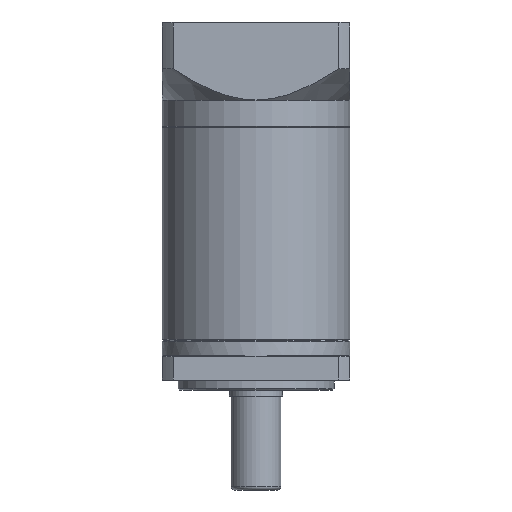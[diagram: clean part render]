
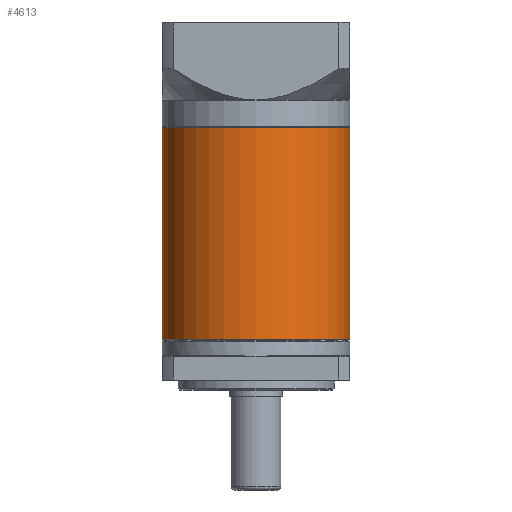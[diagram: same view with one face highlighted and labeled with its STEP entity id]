
A CAD part, front view. The second image highlights one B-rep face of the part: STEP entity #4613.
In plain terms, the highlighted cylindrical face has radius 30 mm (diameter 60 mm), a partial arc.
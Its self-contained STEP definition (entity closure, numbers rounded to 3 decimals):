
#4613 = ADVANCED_FACE ( 'NONE', ( #18618 ), #7306, .T. ) ;
#7306 = CYLINDRICAL_SURFACE ( 'NONE', #83870, 30. ) ;
#7723 = DIRECTION ( 'NONE',  ( 0., 0., -1. ) ) ;
#9926 = EDGE_CURVE ( 'NONE', #99716, #85970, #29562, .T. ) ;
#12127 = EDGE_LOOP ( 'NONE', ( #60117, #15418, #45933, #13732 ) ) ;
#13732 = ORIENTED_EDGE ( 'NONE', *, *, #93222, .T. ) ;
#13764 = LINE ( 'NONE', #31440, #21214 ) ;
#15418 = ORIENTED_EDGE ( 'NONE', *, *, #9926, .T. ) ;
#16421 = CARTESIAN_POINT ( 'NONE',  ( -44.581, -3.799, 121.95 ) ) ;
#18618 = FACE_OUTER_BOUND ( 'NONE', #12127, .T. ) ;
#19616 = CARTESIAN_POINT ( 'NONE',  ( -44.581, -3.799, 121.7 ) ) ;
#21214 = VECTOR ( 'NONE', #79597, 1000. ) ;
#22242 = VERTEX_POINT ( 'NONE', #81801 ) ;
#22758 = DIRECTION ( 'NONE',  ( 1., 0., 0. ) ) ;
#28715 = DIRECTION ( 'NONE',  ( 0., 0., -1. ) ) ;
#28770 = LINE ( 'NONE', #68141, #66244 ) ;
#29562 = CIRCLE ( 'NONE', #95355, 30. ) ;
#31007 = CARTESIAN_POINT ( 'NONE',  ( -74.581, -3.799, 53.9 ) ) ;
#31440 = CARTESIAN_POINT ( 'NONE',  ( -74.581, -3.799, 121.95 ) ) ;
#31933 = DIRECTION ( 'NONE',  ( 0., 0., 1. ) ) ;
#45933 = ORIENTED_EDGE ( 'NONE', *, *, #81151, .T. ) ;
#48498 = CARTESIAN_POINT ( 'NONE',  ( -74.581, -3.799, 121.7 ) ) ;
#60117 = ORIENTED_EDGE ( 'NONE', *, *, #64260, .F. ) ;
#64260 = EDGE_CURVE ( 'NONE', #99716, #22242, #28770, .T. ) ;
#66244 = VECTOR ( 'NONE', #99762, 1000. ) ;
#68141 = CARTESIAN_POINT ( 'NONE',  ( -14.581, -3.799, 121.95 ) ) ;
#70398 = VERTEX_POINT ( 'NONE', #31007 ) ;
#71898 = DIRECTION ( 'NONE',  ( -1., 0., 0. ) ) ;
#75864 = DIRECTION ( 'NONE',  ( 1., 0., 0. ) ) ;
#77987 = CARTESIAN_POINT ( 'NONE',  ( -14.581, -3.799, 121.7 ) ) ;
#79597 = DIRECTION ( 'NONE',  ( 0., 0., -1. ) ) ;
#81151 = EDGE_CURVE ( 'NONE', #85970, #70398, #13764, .T. ) ;
#81801 = CARTESIAN_POINT ( 'NONE',  ( -14.581, -3.799, 53.9 ) ) ;
#83870 = AXIS2_PLACEMENT_3D ( 'NONE', #16421, #7723, #71898 ) ;
#85970 = VERTEX_POINT ( 'NONE', #48498 ) ;
#86199 = AXIS2_PLACEMENT_3D ( 'NONE', #94856, #31933, #22758 ) ;
#93222 = EDGE_CURVE ( 'NONE', #70398, #22242, #96957, .T. ) ;
#94856 = CARTESIAN_POINT ( 'NONE',  ( -44.581, -3.799, 53.9 ) ) ;
#95355 = AXIS2_PLACEMENT_3D ( 'NONE', #19616, #28715, #75864 ) ;
#96957 = CIRCLE ( 'NONE', #86199, 30. ) ;
#99716 = VERTEX_POINT ( 'NONE', #77987 ) ;
#99762 = DIRECTION ( 'NONE',  ( 0., 0., -1. ) ) ;
